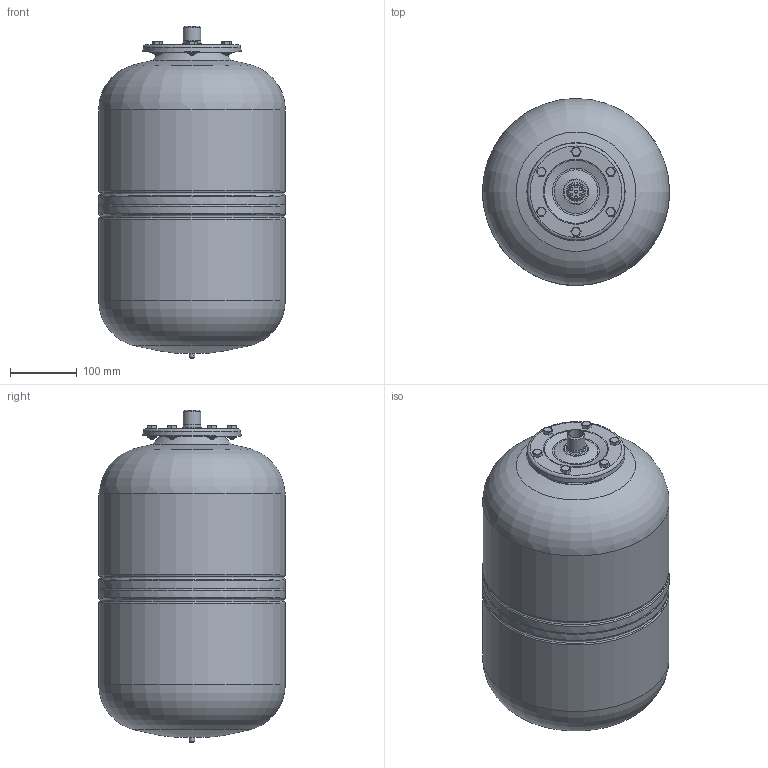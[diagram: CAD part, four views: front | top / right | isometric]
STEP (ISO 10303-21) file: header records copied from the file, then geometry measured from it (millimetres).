
FILE_DESCRIPTION(('STEP AP214'), '1');
FILE_NAME('WRV-24(ôë.140õ3_4'''')', '', ('UNSPECIFIED'), ('UNSPECIFIED'), 'ASCON STEP Converter 1.3', 'ASCON Math Kernel', '');
FILE_SCHEMA(('AUTOMOTIVE_DESIGN { 1 0 10303 214 3 1 1}'));
Length unit declared in the file: millimetre
Bounding box: 280.54 x 280.5 x 498 mm (x, y, z)
Volume: 25021640.1 mm3; surface area: 478209.5 mm2
Topology: 1 solids, 1 shells, 175 faces, 452 edges, 318 vertices
Faces by surface type: plane 82, cylinder 34, cone 33, torus 24, sphere 2
Full cylindrical faces by diameter (mm): 4 x7, 5.5 x1, 8 x13, 14 x6, 21.2 x1, 26.442 x1, 26.8 x1, 280 x4
Entity records: 8461 total; most frequent: CARTESIAN_POINT 2906, DIRECTION 886, ORIENTED_EDGE 744, AXIS2_PLACEMENT_3D 404, EDGE_CURVE 372, VERTEX_POINT 318, EDGE_LOOP 294, FACE_BOUND 272
